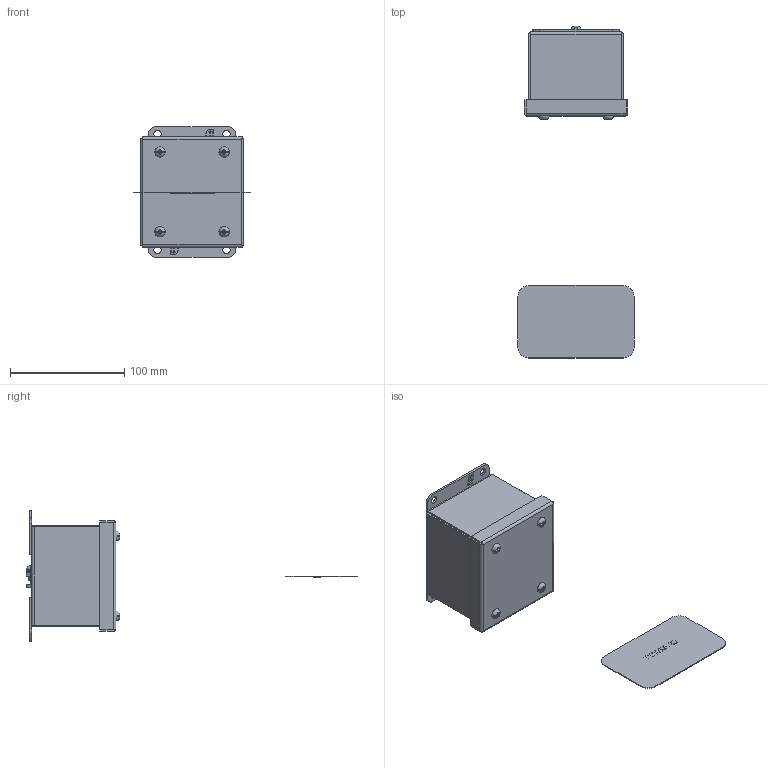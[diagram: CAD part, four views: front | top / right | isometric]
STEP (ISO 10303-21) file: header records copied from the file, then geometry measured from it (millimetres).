
FILE_DESCRIPTION(/* description */ ('Unknown'),/* implementation_level */ '2;1');
FILE_NAME(/* name */ '1436A',/* time_stamp */ '2018-10-29T08:02:27-04:00',/* author */ ('Unknown'),/* organization */ ('Unknown'),/* preprocessor_version */ 'ST-DEVELOPER v16.7',/* originating_system */ 'DEX',/* authorisation */ $);
FILE_SCHEMA (('AUTOMOTIVE_DESIGN {1 0 10303 214 3 1 1}'));
Length unit declared in the file: millimetre
Products named in the file (20): 1436A; RVN01002; COM44213; std26020; COM52862; COM44209; STD26152; GSK11025; QLB20277; AKT90316; RNG17670; SCS19475; KIT95027; NTS17050; NTS16500; LAB30005; WAF250205; WAL251505; scs18968
Assembly tree (26 placements, depth 3):
  1436A
    RVN01002  x4
    COM44213
      COM44213
      std26020
    COM52862  x2
    COM44209
    STD26152
    GSK11025
    QLB20277
    AKT90316  x4
      RNG17670
      SCS19475
    KIT95027
      NTS17050
      NTS16500
      LAB30005
      WAF250205
      WAL251505
      scs18968
Bounding box: 101.6 x 290.64 x 114.3 mm (x, y, z)
Volume: 108774.5 mm3; surface area: 138847.2 mm2
Topology: 25 solids, 25 shells, 674 faces, 1691 edges, 1105 vertices
Faces by surface type: plane 465, cylinder 147, bspline 36, cone 16, torus 10
Full cylindrical faces by diameter (mm): 3.759 x4, 3.967 x3, 4.039 x4, 4.699 x1, 4.775 x1, 4.826 x4, 5.461 x1, 6.35 x9, 6.985 x4, 9.525 x2, 9.779 x1, 9.906 x4, 10.312 x4, 12.7 x1
Entity records: 16523 total; most frequent: CARTESIAN_POINT 5267, ORIENTED_EDGE 2240, DIRECTION 2109, EDGE_CURVE 1120, VERTEX_POINT 746, LINE 713, VECTOR 713, AXIS2_PLACEMENT_3D 698
